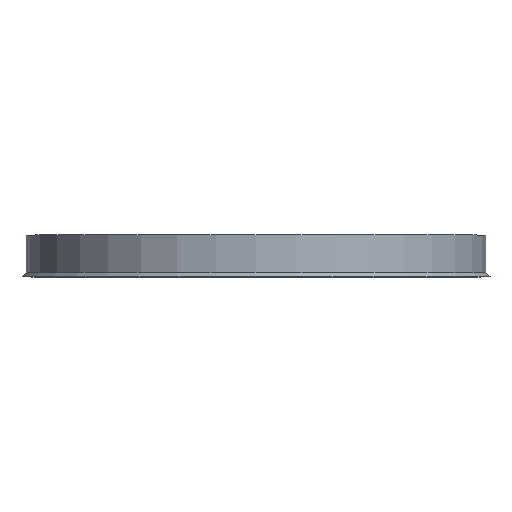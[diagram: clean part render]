
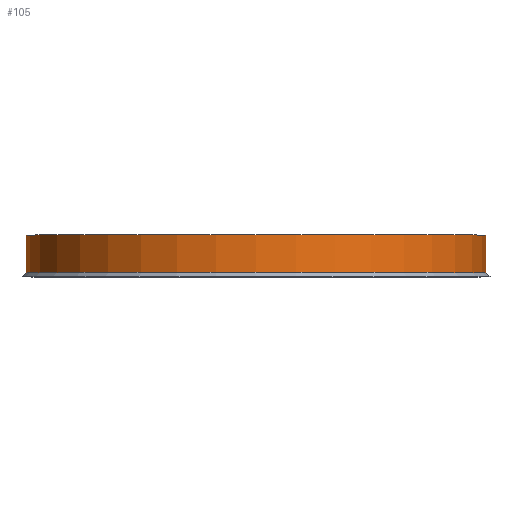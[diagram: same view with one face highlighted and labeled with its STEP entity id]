
A CAD part, top view. The second image highlights one B-rep face of the part: STEP entity #105.
In plain terms, the highlighted cylindrical face has radius 55 mm (diameter 110 mm), a full revolution.
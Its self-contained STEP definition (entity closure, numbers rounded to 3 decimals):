
#18=CYLINDRICAL_SURFACE('',#142,55.);
#24=FACE_OUTER_BOUND('',#31,.T.);
#31=EDGE_LOOP('',(#91,#92,#93,#94,#95,#96));
#36=LINE('',#205,#41);
#41=VECTOR('',#177,55.);
#42=CIRCLE('',#130,55.);
#43=CIRCLE('',#131,55.);
#48=CIRCLE('',#140,55.);
#49=CIRCLE('',#141,55.);
#50=VERTEX_POINT('',#180);
#51=VERTEX_POINT('',#181);
#56=VERTEX_POINT('',#199);
#57=VERTEX_POINT('',#200);
#58=EDGE_CURVE('',#50,#51,#42,.T.);
#59=EDGE_CURVE('',#51,#50,#43,.T.);
#67=EDGE_CURVE('',#56,#57,#48,.T.);
#69=EDGE_CURVE('',#57,#56,#49,.T.);
#70=EDGE_CURVE('',#51,#57,#36,.T.);
#91=ORIENTED_EDGE('',*,*,#58,.F.);
#92=ORIENTED_EDGE('',*,*,#59,.F.);
#93=ORIENTED_EDGE('',*,*,#70,.T.);
#94=ORIENTED_EDGE('',*,*,#69,.T.);
#95=ORIENTED_EDGE('',*,*,#67,.T.);
#96=ORIENTED_EDGE('',*,*,#70,.F.);
#105=ADVANCED_FACE('',(#24),#18,.T.);
#130=AXIS2_PLACEMENT_3D('',#182,#147,#148);
#131=AXIS2_PLACEMENT_3D('',#183,#149,#150);
#140=AXIS2_PLACEMENT_3D('',#201,#170,#171);
#141=AXIS2_PLACEMENT_3D('',#203,#173,#174);
#142=AXIS2_PLACEMENT_3D('',#204,#175,#176);
#147=DIRECTION('center_axis',(0.,1.,0.));
#148=DIRECTION('ref_axis',(-1.,0.,0.));
#149=DIRECTION('center_axis',(0.,1.,0.));
#150=DIRECTION('ref_axis',(-1.,0.,0.));
#170=DIRECTION('center_axis',(0.,1.,0.));
#171=DIRECTION('ref_axis',(-1.,0.,0.));
#173=DIRECTION('center_axis',(0.,1.,0.));
#174=DIRECTION('ref_axis',(-1.,0.,0.));
#175=DIRECTION('center_axis',(0.,1.,0.));
#176=DIRECTION('ref_axis',(-1.,0.,0.));
#177=DIRECTION('',(0.,-1.,0.));
#180=CARTESIAN_POINT('',(-55.,10.,0.));
#181=CARTESIAN_POINT('',(55.,10.,0.));
#182=CARTESIAN_POINT('Origin',(0.,10.,0.));
#183=CARTESIAN_POINT('Origin',(0.,10.,0.));
#199=CARTESIAN_POINT('',(-55.,1.,0.));
#200=CARTESIAN_POINT('',(55.,1.,0.));
#201=CARTESIAN_POINT('Origin',(0.,1.,0.));
#203=CARTESIAN_POINT('Origin',(0.,1.,0.));
#204=CARTESIAN_POINT('Origin',(0.,0.,0.));
#205=CARTESIAN_POINT('',(55.,0.,0.));
